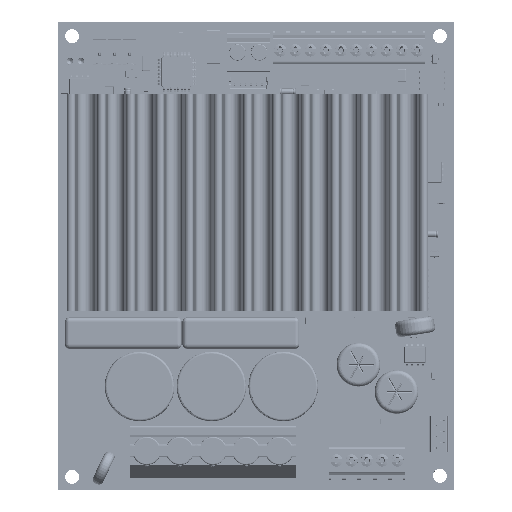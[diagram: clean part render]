
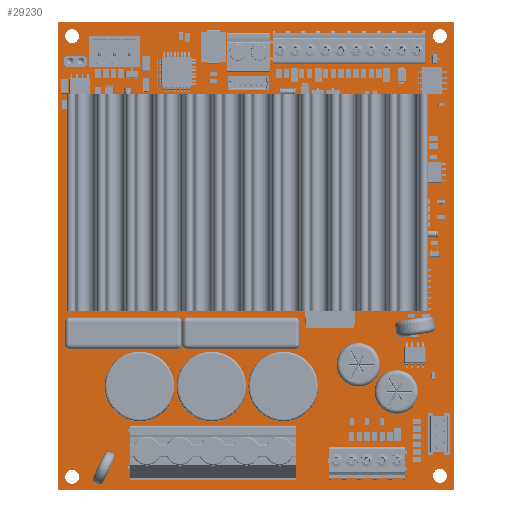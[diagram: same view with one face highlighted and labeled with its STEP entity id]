
A CAD part, top view. The second image highlights one B-rep face of the part: STEP entity #29230.
In plain terms, the highlighted planar face has unit normal (0, 0, 1).
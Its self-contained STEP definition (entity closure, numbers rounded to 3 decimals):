
#29230=ADVANCED_FACE('',(#57338,#57339,#57340,#57341,#57342,#57343,#57344,#57345,#57346),#57347,.T.);
#57338=FACE_BOUND('',#111510,.T.);
#57339=FACE_BOUND('',#111511,.T.);
#57340=FACE_BOUND('',#111512,.T.);
#57341=FACE_BOUND('',#111513,.T.);
#57342=FACE_BOUND('',#111514,.T.);
#57343=FACE_BOUND('',#111515,.T.);
#57344=FACE_BOUND('',#111516,.T.);
#57345=FACE_BOUND('',#111517,.T.);
#57346=FACE_OUTER_BOUND('',#111518,.T.);
#57347=PLANE('',#111519);
#111510=EDGE_LOOP('',(#188678));
#111511=EDGE_LOOP('',(#188679));
#111512=EDGE_LOOP('',(#188680));
#111513=EDGE_LOOP('',(#188681));
#111514=EDGE_LOOP('',(#188682));
#111515=EDGE_LOOP('',(#188683));
#111516=EDGE_LOOP('',(#188684));
#111517=EDGE_LOOP('',(#188685));
#111518=EDGE_LOOP('',(#188686,#188687,#188688,#188689));
#111519=AXIS2_PLACEMENT_3D('',#188690,#188691,#188692);
#188678=ORIENTED_EDGE('',*,*,#225402,.T.);
#188679=ORIENTED_EDGE('',*,*,#225405,.T.);
#188680=ORIENTED_EDGE('',*,*,#225408,.T.);
#188681=ORIENTED_EDGE('',*,*,#225411,.T.);
#188682=ORIENTED_EDGE('',*,*,#225414,.T.);
#188683=ORIENTED_EDGE('',*,*,#225417,.T.);
#188684=ORIENTED_EDGE('',*,*,#225420,.T.);
#188685=ORIENTED_EDGE('',*,*,#225423,.T.);
#188686=ORIENTED_EDGE('',*,*,#225426,.T.);
#188687=ORIENTED_EDGE('',*,*,#225427,.T.);
#188688=ORIENTED_EDGE('',*,*,#225428,.T.);
#188689=ORIENTED_EDGE('',*,*,#225429,.T.);
#188690=CARTESIAN_POINT('',(45.5,53.75,1.6));
#188691=DIRECTION('',(0.0,0.0,1.0));
#188692=DIRECTION('',(1.0,0.0,0.0));
#225402=EDGE_CURVE('',#270484,#270484,#270485,.T.);
#225405=EDGE_CURVE('',#270489,#270489,#270490,.T.);
#225408=EDGE_CURVE('',#270494,#270494,#270495,.T.);
#225411=EDGE_CURVE('',#270499,#270499,#270500,.T.);
#225414=EDGE_CURVE('',#270504,#270504,#270505,.T.);
#225417=EDGE_CURVE('',#270509,#270509,#270510,.T.);
#225420=EDGE_CURVE('',#270514,#270514,#270515,.T.);
#225423=EDGE_CURVE('',#270519,#270519,#270520,.T.);
#225426=EDGE_CURVE('',#270524,#270525,#270526,.T.);
#225427=EDGE_CURVE('',#270525,#270527,#270528,.T.);
#225428=EDGE_CURVE('',#270527,#270529,#270530,.T.);
#225429=EDGE_CURVE('',#270529,#270524,#270531,.T.);
#270484=VERTEX_POINT('',#344263);
#270485=CIRCLE('',#344264,1.6);
#270489=VERTEX_POINT('',#344268);
#270490=CIRCLE('',#344269,1.6);
#270494=VERTEX_POINT('',#344273);
#270495=CIRCLE('',#344274,1.6);
#270499=VERTEX_POINT('',#344278);
#270500=CIRCLE('',#344279,1.6);
#270504=VERTEX_POINT('',#344283);
#270505=CIRCLE('',#344284,1.6);
#270509=VERTEX_POINT('',#344288);
#270510=CIRCLE('',#344289,1.6);
#270514=VERTEX_POINT('',#344293);
#270515=CIRCLE('',#344294,1.6);
#270519=VERTEX_POINT('',#344298);
#270520=CIRCLE('',#344299,1.6);
#270524=VERTEX_POINT('',#344303);
#270525=VERTEX_POINT('',#344304);
#270526=LINE('',#344305,#344306);
#270527=VERTEX_POINT('',#344307);
#270528=LINE('',#344308,#344309);
#270529=VERTEX_POINT('',#344310);
#270530=LINE('',#344311,#344312);
#270531=LINE('',#344313,#344314);
#344263=CARTESIAN_POINT('',(13.7,65.25,1.6));
#344264=AXIS2_PLACEMENT_3D('',#383622,#383623,#383624);
#344268=CARTESIAN_POINT('',(32.5,65.25,1.6));
#344269=AXIS2_PLACEMENT_3D('',#383628,#383629,#383630);
#344273=CARTESIAN_POINT('',(70.1,65.25,1.6));
#344274=AXIS2_PLACEMENT_3D('',#383634,#383635,#383636);
#344278=CARTESIAN_POINT('',(51.3,65.25,1.6));
#344279=AXIS2_PLACEMENT_3D('',#383640,#383641,#383642);
#344283=CARTESIAN_POINT('',(1.65,104.25,1.6));
#344284=AXIS2_PLACEMENT_3D('',#383646,#383647,#383648);
#344288=CARTESIAN_POINT('',(86.15,104.25,1.6));
#344289=AXIS2_PLACEMENT_3D('',#383652,#383653,#383654);
#344293=CARTESIAN_POINT('',(86.15,3.25,1.6));
#344294=AXIS2_PLACEMENT_3D('',#383658,#383659,#383660);
#344298=CARTESIAN_POINT('',(1.65,3.0,1.6));
#344299=AXIS2_PLACEMENT_3D('',#383664,#383665,#383666);
#344303=CARTESIAN_POINT('',(0.0,0.0,1.6));
#344304=CARTESIAN_POINT('',(91.0,0.0,1.6));
#344305=CARTESIAN_POINT('',(45.5,0.0,1.6));
#344306=VECTOR('',#383670,1.0);
#344307=CARTESIAN_POINT('',(91.0,107.5,1.6));
#344308=CARTESIAN_POINT('',(91.0,53.75,1.6));
#344309=VECTOR('',#383671,1.0);
#344310=CARTESIAN_POINT('',(0.0,107.5,1.6));
#344311=CARTESIAN_POINT('',(45.5,107.5,1.6));
#344312=VECTOR('',#383672,1.0);
#344313=CARTESIAN_POINT('',(0.0,53.75,1.6));
#344314=VECTOR('',#383673,1.0);
#383622=CARTESIAN_POINT('',(15.3,65.25,1.6));
#383623=DIRECTION('',(-0.0,0.0,-1.0));
#383624=DIRECTION('',(-1.0,0.0,0.0));
#383628=CARTESIAN_POINT('',(34.1,65.25,1.6));
#383629=DIRECTION('',(-0.0,0.0,-1.0));
#383630=DIRECTION('',(-1.0,0.0,0.0));
#383634=CARTESIAN_POINT('',(71.7,65.25,1.6));
#383635=DIRECTION('',(-0.0,0.0,-1.0));
#383636=DIRECTION('',(-1.0,0.0,0.0));
#383640=CARTESIAN_POINT('',(52.9,65.25,1.6));
#383641=DIRECTION('',(-0.0,0.0,-1.0));
#383642=DIRECTION('',(-1.0,0.0,0.0));
#383646=CARTESIAN_POINT('',(3.25,104.25,1.6));
#383647=DIRECTION('',(-0.0,0.0,-1.0));
#383648=DIRECTION('',(-1.0,0.0,0.0));
#383652=CARTESIAN_POINT('',(87.75,104.25,1.6));
#383653=DIRECTION('',(-0.0,0.0,-1.0));
#383654=DIRECTION('',(-1.0,0.0,0.0));
#383658=CARTESIAN_POINT('',(87.75,3.25,1.6));
#383659=DIRECTION('',(-0.0,0.0,-1.0));
#383660=DIRECTION('',(-1.0,0.0,0.0));
#383664=CARTESIAN_POINT('',(3.25,3.0,1.6));
#383665=DIRECTION('',(-0.0,0.0,-1.0));
#383666=DIRECTION('',(-1.0,0.0,0.0));
#383670=DIRECTION('',(1.0,0.0,0.0));
#383671=DIRECTION('',(0.0,1.0,0.0));
#383672=DIRECTION('',(-1.0,0.0,0.0));
#383673=DIRECTION('',(0.0,-1.0,0.0));
